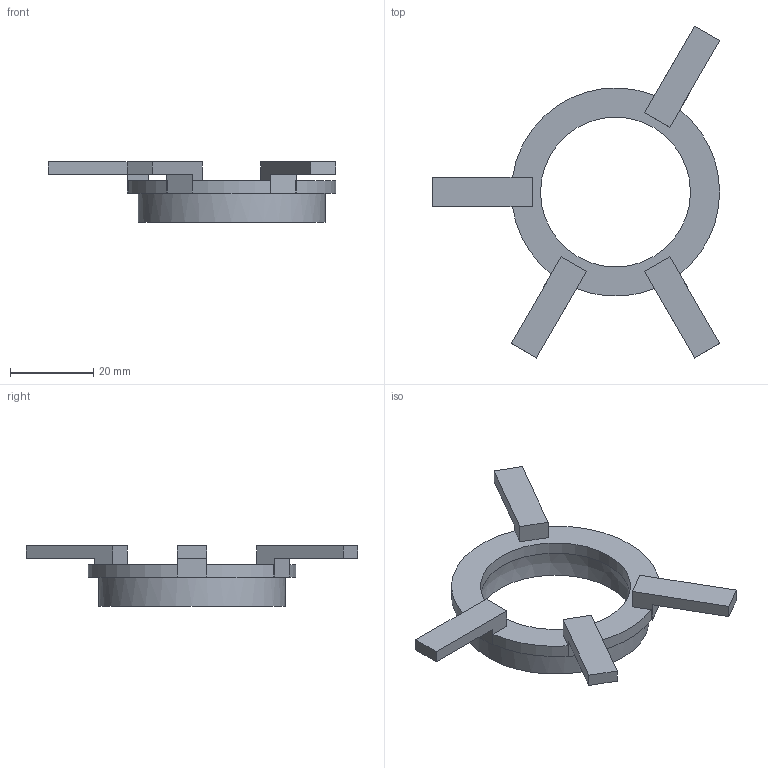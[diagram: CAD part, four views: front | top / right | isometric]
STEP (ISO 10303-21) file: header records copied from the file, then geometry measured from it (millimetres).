
FILE_DESCRIPTION(('FreeCAD Model'),'2;1');
FILE_NAME('Open CASCADE Shape Model','2026-10-30T15:57:33',('FreeCAD'),( 'FreeCAD'),'Open CASCADE STEP processor 7.8','FreeCAD','Unknown');
FILE_SCHEMA(('AUTOMOTIVE_DESIGN { 1 0 10303 214 1 1 1 1 }'));
Length unit declared in the file: millimetre
Products named in the file (1): Open CASCADE STEP translator 7.8 7
Bounding box: 69.03 x 79.71 x 14.5 mm (x, y, z)
Volume: 8262.5 mm3; surface area: 6489.3 mm2
Topology: 1 solids, 1 shells, 39 faces, 119 edges, 84 vertices
Faces by surface type: plane 32, cylinder 6, sphere 1
Full cylindrical faces by diameter (mm): 36 x1, 44.9 x1
Entity records: 1364 total; most frequent: CARTESIAN_POINT 243, ORIENTED_EDGE 238, DIRECTION 224, EDGE_CURVE 119, LINE 94, VECTOR 94, VERTEX_POINT 84, AXIS2_PLACEMENT_3D 65
